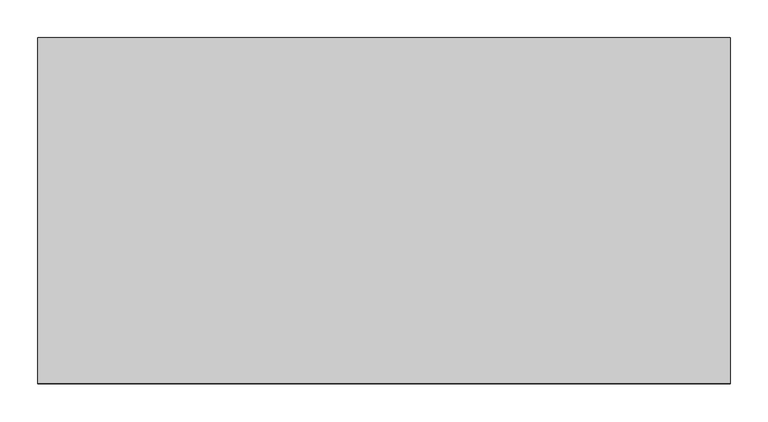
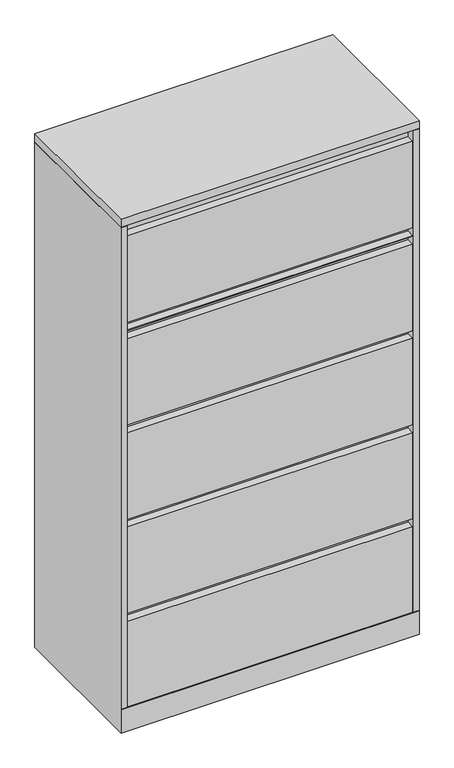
"""IFC4 building model written with IfcOpenShell, lengths in millimetres: furniture geometry, Steelcase - Universal Storage - Lateral File - 5 High - Flush Steel : 4 Drawers/1 Lift Up Door Fixed Shelf - 18D x 36W."""

from ifc_helpers import new_model, si_unit, frame, origin, place, context, project, spatial, polyline, outline, extrude, faceted_brep, source, transform, mapped, element, save


def furniture_9609351c(model_context):
    return source(origin(), model_context, "Body", "SolidModel", [
        extrude(outline(polyline([(914.4, 457.2), (914.4, 0.0), (0.0, 0.0), (0.0, 457.2), (914.4, 457.2)])), frame((0.0, 0.0, 1638.2999516), z_axis=(0.0, 0.0, 1.0), x_axis=(1.0, 0.0, 0.0)), (0.0, 0.0, 1.0), 25.4),
        faceted_brep([(914.4, 0.0, 0.0), (914.4, 457.2, 0.0), (914.4, 457.2, 1636.7759167), (914.4, 0.0, 1636.7759167), (914.4, 0.0, 77.7239985), (914.4, 1.524, 77.7239985), (914.4, 1.524, 76.2), (914.4, 0.0, 76.2), (0.0, 0.0, 0.0), (0.0, 0.0, 76.2), (0.0, 1.524, 76.2), (0.0, 1.524, 77.7239985), (0.0, 0.0, 77.7239985), (0.0, 0.0, 1636.7759167), (0.0, 457.2, 1636.7759167), (0.0, 457.2, 0.0), (19.304, 0.0, 1636.7759167), (19.304, 25.4000121, 1636.7759167), (895.096, 25.4000121, 1636.7759167), (895.096, 0.0, 1636.7759167), (19.304, 25.4000121, 101.600003), (895.096, 25.4000121, 101.600003), (19.304, 1.524, 101.600003), (895.096, 1.524, 101.600003), (895.096, 1.524, 77.7239985), (19.304, 1.524, 77.7239985), (19.304, 0.0, 77.7239985), (895.096, 0.0, 77.7239985)], [[[0, 1, 2, 3, 4, 5, 6, 7]], [[8, 9, 10, 11, 12, 13, 14, 15]], [[1, 0, 8, 15]], [[2, 1, 15, 14]], [[3, 2, 14, 13, 16, 17, 18, 19]], [[17, 20, 21, 18]], [[20, 22, 23, 21]], [[10, 6, 5, 24, 23, 22, 25, 11]], [[7, 6, 10, 9]], [[0, 7, 9, 8]], [[17, 16, 26, 25, 22, 20]], [[26, 16, 13, 12]], [[25, 26, 12, 11]], [[24, 27, 19, 18, 21, 23]], [[27, 24, 5, 4]], [[19, 27, 4, 3]]]),
        extrude(outline(polyline([(889.0000242, 431.7999992), (889.0000242, 25.4000121), (25.4000008, 25.4000121), (25.4000008, 431.7999992), (889.0000242, 431.7999992)])), frame((0.0, 0.0, 1636.7759167), z_axis=(0.0, 0.0, 1.0), x_axis=(1.0, 0.0, 0.0)), (0.0, 0.0, 1.0), 1.5240349),
        extrude(outline(polyline([(893.5719835, 0.0), (20.8280006, 0.0), (20.8280006, 25.4000121), (893.5719835, 25.4000121), (893.5719835, 0.0)])), frame((0.0, 0.0, 1295.4), z_axis=(0.0, 0.0, 1.0), x_axis=(1.0, 0.0, 0.0)), (0.0, 0.0, 1.0), 3.1749516),
        extrude(outline(polyline([(893.5719835, 0.0), (20.8280006, 0.0), (20.8280006, 25.4000121), (893.5719835, 25.4000121), (893.5719835, 0.0)])), frame((0.0, 0.0, 1323.975), z_axis=(0.0, 0.0, 1.0), x_axis=(1.0, 0.0, 0.0)), (0.0, 0.0, 1.0), 279.4),
        extrude(outline(polyline([(893.5719835, 0.0), (20.8280006, 0.0), (20.8280006, 25.4000121), (893.5719835, 25.4000121), (893.5719835, 0.0)])), frame((0.0, 0.0, 990.6), z_axis=(0.0, 0.0, 1.0), x_axis=(1.0, 0.0, 0.0)), (0.0, 0.0, 1.0), 279.4),
        extrude(outline(polyline([(893.5719835, 0.0), (20.8280006, 0.0), (20.8280006, 25.4000121), (893.5719835, 25.4000121), (893.5719835, 0.0)])), frame((0.0, 0.0, 685.8), z_axis=(0.0, 0.0, 1.0), x_axis=(1.0, 0.0, 0.0)), (0.0, 0.0, 1.0), 279.4),
        extrude(outline(polyline([(893.5719835, 0.0), (20.8280006, 0.0), (20.8280006, 25.4000121), (893.5719835, 25.4000121), (893.5719835, 0.0)])), frame((0.0, 0.0, 381.0), z_axis=(0.0, 0.0, 1.0), x_axis=(1.0, 0.0, 0.0)), (0.0, 0.0, 1.0), 279.4),
        extrude(outline(polyline([(893.5719835, 0.0), (20.8280006, 0.0), (20.8280006, 25.4000121), (893.5719835, 25.4000121), (893.5719835, 0.0)])), frame((0.0, 0.0, 77.7239985), z_axis=(0.0, 0.0, 1.0), x_axis=(1.0, 0.0, 0.0)), (0.0, 0.0, 1.0), 277.8759893),
    ])


if __name__ == "__main__":
    model = new_model("IFC4")
    model_context = context("Model", 3, world=origin())
    ifc_project = project(units=[si_unit("LENGTHUNIT", "METRE", prefix="MILLI")], contexts=[model_context])
    site = spatial("IfcSite", under=ifc_project)
    building = spatial("IfcBuilding", under=site)
    placement = place(None, origin())
    furniture_shape = furniture_9609351c(model_context)
    element("IfcFurniture", 1, ObjectType="Steelcase - Universal Storage - Lateral File - 5 High - Flush Steel : 4 Drawers/1 Lift Up Door Fixed Shelf - 18D x 36W", at=placement, inside=building, context=model_context, shape_type="MappedRepresentation", body=[
        mapped(furniture_shape, transform((0.0, 0.0, 0.0), x_axis=(1.0, 0.0, 0.0), y_axis=(0.0, 1.0, 0.0), z_axis=(0.0, 0.0, 1.0))),
    ])
    save(model, "model.ifc")
